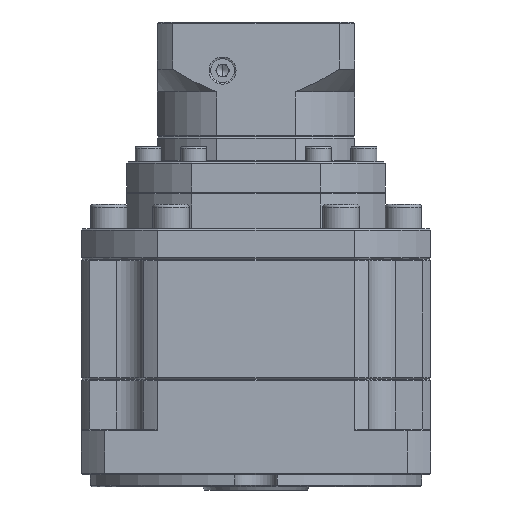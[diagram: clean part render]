
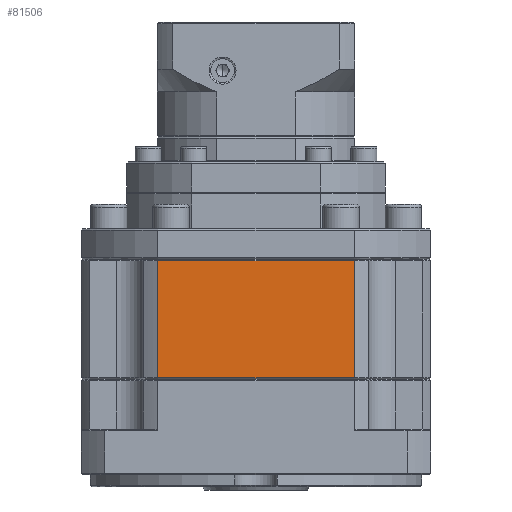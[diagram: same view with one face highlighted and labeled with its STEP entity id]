
A CAD part, front view. The second image highlights one B-rep face of the part: STEP entity #81506.
In plain terms, the highlighted planar face has unit normal (0, -1, 0).
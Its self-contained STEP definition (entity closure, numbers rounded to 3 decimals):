
#297 = VERTEX_POINT ( 'NONE', #127113 ) ;
#4197 = LINE ( 'NONE', #54863, #127738 ) ;
#8430 = PLANE ( 'NONE',  #40364 ) ;
#9858 = EDGE_CURVE ( 'NONE', #42181, #297, #9986, .T. ) ;
#9986 = LINE ( 'NONE', #125249, #71830 ) ;
#15247 = EDGE_CURVE ( 'NONE', #297, #112153, #109579, .T. ) ;
#18544 = DIRECTION ( 'NONE',  ( 0., 0., 1. ) ) ;
#40364 = AXIS2_PLACEMENT_3D ( 'NONE', #72068, #81191, #92041 ) ;
#42181 = VERTEX_POINT ( 'NONE', #95374 ) ;
#46511 = VECTOR ( 'NONE', #18544, 1000. ) ;
#52812 = EDGE_CURVE ( 'NONE', #112153, #97961, #61073, .T. ) ;
#53753 = ORIENTED_EDGE ( 'NONE', *, *, #52812, .F. ) ;
#54863 = CARTESIAN_POINT ( 'NONE',  ( 101.93, 24.91, -79.099 ) ) ;
#55314 = DIRECTION ( 'NONE',  ( 1., 0., 0. ) ) ;
#61073 = LINE ( 'NONE', #122953, #46511 ) ;
#63682 = CARTESIAN_POINT ( 'NONE',  ( 69.53, 24.91, -117.599 ) ) ;
#67621 = DIRECTION ( 'NONE',  ( -1., 0., 0. ) ) ;
#69979 = FACE_OUTER_BOUND ( 'NONE', #90739, .T. ) ;
#71830 = VECTOR ( 'NONE', #133492, 1000. ) ;
#72068 = CARTESIAN_POINT ( 'NONE',  ( 159.43, 24.91, -78.599 ) ) ;
#76490 = EDGE_CURVE ( 'NONE', #97961, #42181, #4197, .T. ) ;
#81191 = DIRECTION ( 'NONE',  ( 0., 1., 0. ) ) ;
#81506 = ADVANCED_FACE ( 'NONE', ( #69979 ), #8430, .F. ) ;
#89794 = ORIENTED_EDGE ( 'NONE', *, *, #76490, .F. ) ;
#90739 = EDGE_LOOP ( 'NONE', ( #115356, #96137, #89794, #53753 ) ) ;
#92041 = DIRECTION ( 'NONE',  ( -1., 0., 0. ) ) ;
#93326 = VECTOR ( 'NONE', #67621, 1000. ) ;
#95374 = CARTESIAN_POINT ( 'NONE',  ( 134.33, 24.91, -79.099 ) ) ;
#96137 = ORIENTED_EDGE ( 'NONE', *, *, #9858, .F. ) ;
#97961 = VERTEX_POINT ( 'NONE', #122218 ) ;
#109579 = LINE ( 'NONE', #115467, #93326 ) ;
#112153 = VERTEX_POINT ( 'NONE', #63682 ) ;
#115356 = ORIENTED_EDGE ( 'NONE', *, *, #15247, .F. ) ;
#115467 = CARTESIAN_POINT ( 'NONE',  ( 159.43, 24.91, -117.599 ) ) ;
#122218 = CARTESIAN_POINT ( 'NONE',  ( 69.53, 24.91, -79.099 ) ) ;
#122953 = CARTESIAN_POINT ( 'NONE',  ( 69.53, 24.91, -78.599 ) ) ;
#125249 = CARTESIAN_POINT ( 'NONE',  ( 134.33, 24.91, -78.599 ) ) ;
#127113 = CARTESIAN_POINT ( 'NONE',  ( 134.33, 24.91, -117.599 ) ) ;
#127738 = VECTOR ( 'NONE', #55314, 1000. ) ;
#133492 = DIRECTION ( 'NONE',  ( 0., 0., -1. ) ) ;
